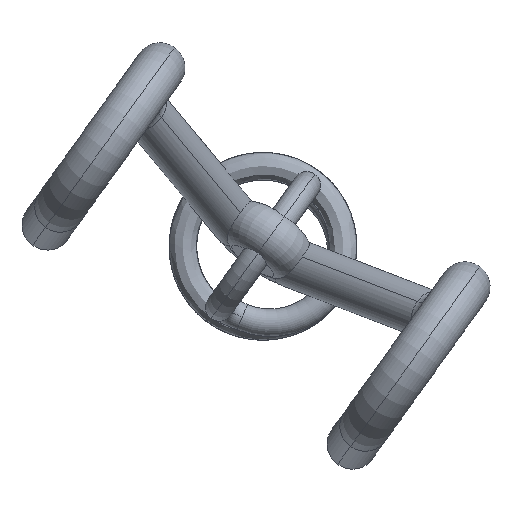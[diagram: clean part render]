
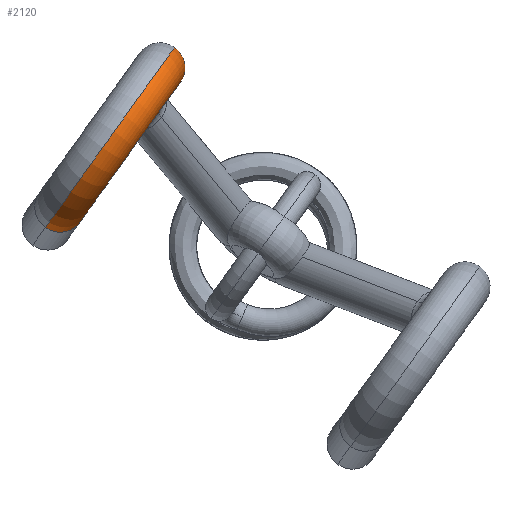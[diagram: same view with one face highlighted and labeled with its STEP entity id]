
A CAD part, front view. The second image highlights one B-rep face of the part: STEP entity #2120.
In plain terms, the highlighted toroidal (fillet/blend) face has major radius 7 mm and minor radius 2 mm.
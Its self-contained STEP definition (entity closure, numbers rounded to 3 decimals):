
#68 = EDGE_LOOP ( 'NONE', ( #1396, #2192, #5358, #3856, #916 ) ) ;
#107 = CARTESIAN_POINT ( 'NONE',  ( 587.148, -51.347, -113.471 ) ) ;
#210 = DIRECTION ( 'NONE',  ( 0.812, 0., -0.583 ) ) ;
#228 = DIRECTION ( 'NONE',  ( -0.146, 0.968, -0.203 ) ) ;
#916 = ORIENTED_EDGE ( 'NONE', *, *, #4486, .F. ) ;
#954 = DIRECTION ( 'NONE',  ( -0.812, 0., 0.583 ) ) ;
#970 = EDGE_CURVE ( 'NONE', #3986, #2655, #2664, .T. ) ;
#1090 = CARTESIAN_POINT ( 'NONE',  ( 576.49, -55.354, -124.888 ) ) ;
#1122 = CARTESIAN_POINT ( 'NONE',  ( 586.653, -50.847, -110.732 ) ) ;
#1189 = AXIS2_PLACEMENT_3D ( 'NONE', #2978, #3040, #3488 ) ;
#1396 = ORIENTED_EDGE ( 'NONE', *, *, #4110, .F. ) ;
#1602 = CIRCLE ( 'NONE', #4403, 2. ) ;
#1836 = DIRECTION ( 'NONE',  ( -0.146, 0.968, -0.203 ) ) ;
#1859 = AXIS2_PLACEMENT_3D ( 'NONE', #3937, #954, #4347 ) ;
#2120 = ADVANCED_FACE ( 'NONE', ( #3287 ), #2936, .T. ) ;
#2192 = ORIENTED_EDGE ( 'NONE', *, *, #4283, .F. ) ;
#2202 = AXIS2_PLACEMENT_3D ( 'NONE', #2808, #5039, #5069 ) ;
#2259 = EDGE_CURVE ( 'NONE', #4495, #2655, #5317, .T. ) ;
#2619 = CARTESIAN_POINT ( 'NONE',  ( 585.524, -51.347, -112.305 ) ) ;
#2655 = VERTEX_POINT ( 'NONE', #5361 ) ;
#2664 = CIRCLE ( 'NONE', #1189, 5. ) ;
#2742 = CARTESIAN_POINT ( 'NONE',  ( 577.62, -54.853, -123.315 ) ) ;
#2808 = CARTESIAN_POINT ( 'NONE',  ( 585.524, -51.347, -112.305 ) ) ;
#2936 = TOROIDAL_SURFACE ( 'NONE', #4962, 7., 2. ) ;
#2978 = CARTESIAN_POINT ( 'NONE',  ( 581.572, -53.1, -117.81 ) ) ;
#3040 = DIRECTION ( 'NONE',  ( -0.812, 0., 0.583 ) ) ;
#3287 = FACE_OUTER_BOUND ( 'NONE', #68, .T. ) ;
#3423 = DIRECTION ( 'NONE',  ( -0.812, 0., 0.583 ) ) ;
#3466 = VERTEX_POINT ( 'NONE', #1122 ) ;
#3488 = DIRECTION ( 'NONE',  ( -0.557, -0.297, -0.776 ) ) ;
#3522 = CIRCLE ( 'NONE', #1859, 9. ) ;
#3526 = VERTEX_POINT ( 'NONE', #1090 ) ;
#3596 = CARTESIAN_POINT ( 'NONE',  ( 578.749, -54.352, -121.742 ) ) ;
#3655 = AXIS2_PLACEMENT_3D ( 'NONE', #2619, #4774, #210 ) ;
#3856 = ORIENTED_EDGE ( 'NONE', *, *, #2259, .F. ) ;
#3937 = CARTESIAN_POINT ( 'NONE',  ( 581.572, -53.1, -117.81 ) ) ;
#3986 = VERTEX_POINT ( 'NONE', #3596 ) ;
#4110 = EDGE_CURVE ( 'NONE', #3526, #3466, #3522, .T. ) ;
#4242 = CARTESIAN_POINT ( 'NONE',  ( 581.572, -53.1, -117.81 ) ) ;
#4283 = EDGE_CURVE ( 'NONE', #3986, #3526, #1602, .T. ) ;
#4314 = CIRCLE ( 'NONE', #2202, 2. ) ;
#4347 = DIRECTION ( 'NONE',  ( -0.557, -0.297, -0.776 ) ) ;
#4403 = AXIS2_PLACEMENT_3D ( 'NONE', #2742, #228, #4423 ) ;
#4423 = DIRECTION ( 'NONE',  ( -0.812, 0., 0.583 ) ) ;
#4486 = EDGE_CURVE ( 'NONE', #3466, #4495, #4314, .T. ) ;
#4495 = VERTEX_POINT ( 'NONE', #107 ) ;
#4774 = DIRECTION ( 'NONE',  ( -0.146, 0.968, -0.203 ) ) ;
#4962 = AXIS2_PLACEMENT_3D ( 'NONE', #4242, #3423, #1836 ) ;
#5039 = DIRECTION ( 'NONE',  ( -0.146, 0.968, -0.203 ) ) ;
#5069 = DIRECTION ( 'NONE',  ( 0.812, 0., -0.583 ) ) ;
#5317 = CIRCLE ( 'NONE', #3655, 2. ) ;
#5358 = ORIENTED_EDGE ( 'NONE', *, *, #970, .T. ) ;
#5361 = CARTESIAN_POINT ( 'NONE',  ( 584.395, -51.848, -113.878 ) ) ;
